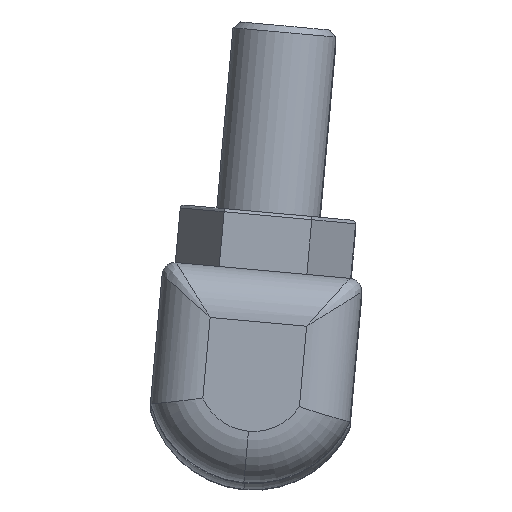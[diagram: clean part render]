
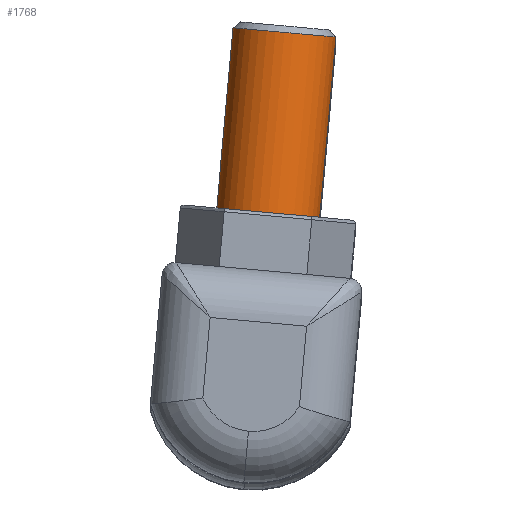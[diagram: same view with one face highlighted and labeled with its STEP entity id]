
A CAD part, top view. The second image highlights one B-rep face of the part: STEP entity #1768.
In plain terms, the highlighted cylindrical face has radius 4 mm (diameter 8 mm), a partial arc.
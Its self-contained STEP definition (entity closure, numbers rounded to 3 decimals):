
#11 = EDGE_LOOP ( 'NONE', ( #227, #621, #1723, #902 ) ) ;
#114 = VECTOR ( 'NONE', #2266, 1000. ) ;
#136 = AXIS2_PLACEMENT_3D ( 'NONE', #1454, #545, #1787 ) ;
#227 = ORIENTED_EDGE ( 'NONE', *, *, #863, .T. ) ;
#494 = EDGE_CURVE ( 'NONE', #885, #2039, #2053, .T. ) ;
#537 = CARTESIAN_POINT ( 'NONE',  ( 4., 19., -26.75 ) ) ;
#545 = DIRECTION ( 'NONE',  ( 0., 0., 1. ) ) ;
#551 = AXIS2_PLACEMENT_3D ( 'NONE', #2308, #1555, #675 ) ;
#585 = DIRECTION ( 'NONE',  ( -1., 0., 0. ) ) ;
#621 = ORIENTED_EDGE ( 'NONE', *, *, #1032, .T. ) ;
#675 = DIRECTION ( 'NONE',  ( 1., 0., 0. ) ) ;
#693 = CARTESIAN_POINT ( 'NONE',  ( -4., 19., -26.75 ) ) ;
#711 = CARTESIAN_POINT ( 'NONE',  ( -4., 19., -12.75 ) ) ;
#863 = EDGE_CURVE ( 'NONE', #1862, #1001, #868, .T. ) ;
#868 = CIRCLE ( 'NONE', #136, 4. ) ;
#885 = VERTEX_POINT ( 'NONE', #711 ) ;
#902 = ORIENTED_EDGE ( 'NONE', *, *, #2250, .F. ) ;
#916 = CARTESIAN_POINT ( 'NONE',  ( 0., 19., -12.75 ) ) ;
#1001 = VERTEX_POINT ( 'NONE', #693 ) ;
#1012 = AXIS2_PLACEMENT_3D ( 'NONE', #916, #1669, #585 ) ;
#1032 = EDGE_CURVE ( 'NONE', #1001, #885, #1754, .T. ) ;
#1148 = LINE ( 'NONE', #1324, #114 ) ;
#1213 = CARTESIAN_POINT ( 'NONE',  ( -4., 19., -27.25 ) ) ;
#1324 = CARTESIAN_POINT ( 'NONE',  ( 4., 19., -27.25 ) ) ;
#1454 = CARTESIAN_POINT ( 'NONE',  ( 0., 19., -26.75 ) ) ;
#1555 = DIRECTION ( 'NONE',  ( 0., 0., 1. ) ) ;
#1669 = DIRECTION ( 'NONE',  ( 0., 0., -1. ) ) ;
#1723 = ORIENTED_EDGE ( 'NONE', *, *, #494, .T. ) ;
#1754 = LINE ( 'NONE', #1213, #1901 ) ;
#1768 = ADVANCED_FACE ( 'NONE', ( #2295 ), #1903, .T. ) ;
#1773 = CARTESIAN_POINT ( 'NONE',  ( 4., 19., -12.75 ) ) ;
#1787 = DIRECTION ( 'NONE',  ( -1., 0., 0. ) ) ;
#1862 = VERTEX_POINT ( 'NONE', #537 ) ;
#1901 = VECTOR ( 'NONE', #1959, 1000. ) ;
#1903 = CYLINDRICAL_SURFACE ( 'NONE', #551, 4. ) ;
#1959 = DIRECTION ( 'NONE',  ( 0., 0., 1. ) ) ;
#2039 = VERTEX_POINT ( 'NONE', #1773 ) ;
#2053 = CIRCLE ( 'NONE', #1012, 4. ) ;
#2250 = EDGE_CURVE ( 'NONE', #1862, #2039, #1148, .T. ) ;
#2266 = DIRECTION ( 'NONE',  ( 0., 0., 1. ) ) ;
#2295 = FACE_OUTER_BOUND ( 'NONE', #11, .T. ) ;
#2308 = CARTESIAN_POINT ( 'NONE',  ( 0., 19., -27.25 ) ) ;
